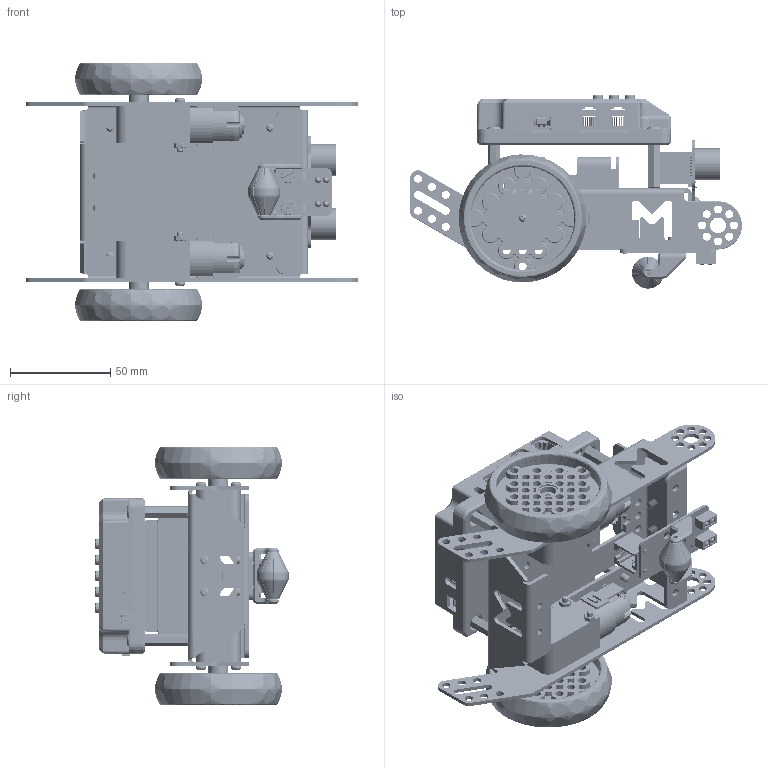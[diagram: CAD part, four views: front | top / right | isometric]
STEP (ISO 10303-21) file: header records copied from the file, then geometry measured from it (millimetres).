
FILE_DESCRIPTION (( 'STEP AP214' ), '1' );
FILE_NAME ('Mbot_V1.1.STEP', '2018-03-01T10:07:23', ( '' ), ( '' ), 'SwSTEP 2.0', 'SolidWorks 2015', '' );
FILE_SCHEMA (( 'AUTOMOTIVE_DESIGN' ));
Length unit declared in the file: millimetre
Products named in the file (20): Coque_Dessous___; Carte_mCore___; Vis_Hexagonale_M4x8; Support_Piles_AA; Roue_Avant_Moitier; Ecrou_M3; DC_Moteur_20mm_X1; Vis_M3x25; Vis M4x10; Chassis_Mbot; Roue_Arrière_X2; Vis_M2.2x9.5; Support_Roue_Avant; Module_suivi_ligne; Entretoise_M4x25; DC_Moteur_20mm_X2; Module_Ultrason; Roue_Arrière_X1; Mbot_V1.1; Coque_Dessus___
Assembly tree (40 placements, depth 2):
  Mbot_V1.1
    Chassis_Mbot
    DC_Moteur_20mm_X1  x2
    DC_Moteur_20mm_X2  x2
    Roue_Arrière_X1  x2
    Roue_Arrière_X2  x2
    Vis_M2.2x9.5  x2
    Ecrou_M3  x4
    Vis_M3x25  x4
    Module_suivi_ligne
    Support_Roue_Avant
    Roue_Avant_Moitier  x2
    Module_Ultrason
    Vis_Hexagonale_M4x8  x6
    Entretoise_M4x25  x4
    Support_Piles_AA
    Coque_Dessous___
    Carte_mCore___
    Vis M4x10  x2
    Coque_Dessus___
Bounding box: 166 x 96.59 x 128.9 mm (x, y, z)
Volume: 184028.4 mm3; surface area: 232086.9 mm2
Topology: 37 solids, 801 shells, 19671 faces, 53462 edges, 35367 vertices
Faces by surface type: plane 9830, cylinder 4660, bspline 4415, cone 661, torus 105
Entity records: 967169 total; most frequent: CARTESIAN_POINT 379485, ORIENTED_EDGE 90698, DIRECTION 72612, EDGE_CURVE 46842, VERTEX_POINT 31415, VECTOR 29808, LINE 29808, AXIS2_PLACEMENT_3D 21402
